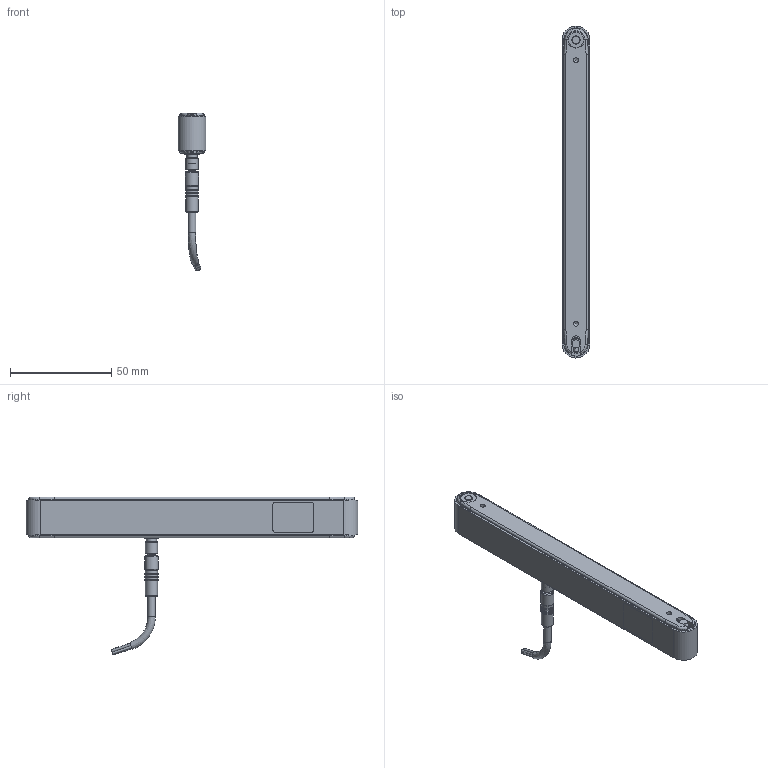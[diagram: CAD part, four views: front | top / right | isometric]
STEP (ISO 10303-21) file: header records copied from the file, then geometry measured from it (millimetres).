
FILE_DESCRIPTION(/* description */ (''),/* implementation_level */ '2;1');
FILE_NAME(/* name */ 'G:\DATEN\CAD\Förderband\Marketing\3D-Modelle (Standard)\FR-12-20\FR-12-20-DL-150-K.stp',/* time_stamp */ '2019-05-07T13:22:31+02:00',/* author */ ('melanie.ochs'),/* organization */ (''),/* preprocessor_version */ 'ST-DEVELOPER v17',/* originating_system */ 'Autodesk Inventor 2019',/* authorisation */ '');
FILE_SCHEMA (('CONFIG_CONTROL_DESIGN'));
Length unit declared in the file: millimetre
Products named in the file (1): FR-12-20-DL-150-K
Bounding box: 13.8 x 163.8 x 77.93 mm (x, y, z)
Volume: 43429.6 mm3; surface area: 27200.2 mm2
Topology: 15 solids, 15 shells, 497 faces, 1283 edges, 845 vertices
Faces by surface type: plane 217, cylinder 118, bspline 64, cone 55, torus 39, sphere 4
Full cylindrical faces by diameter (mm): 0.48 x4, 0.5 x4, 0.52 x4, 0.6 x4, 1 x7, 2 x2, 2.459 x4, 3.15 x1, 3.4 x1, 3.7 x1, 4 x5, 4.4 x1, 4.5 x2, 5 x3, 5.2 x1, 5.5 x2, 6 x5, 6.5 x1, 8 x6, 9.2 x4, 12 x3
Entity records: 16518 total; most frequent: CARTESIAN_POINT 4027, ORIENTED_EDGE 2524, DIRECTION 2442, EDGE_CURVE 1262, AXIS2_PLACEMENT_3D 950, VERTEX_POINT 845, EDGE_LOOP 553, LINE 542
